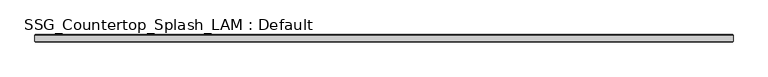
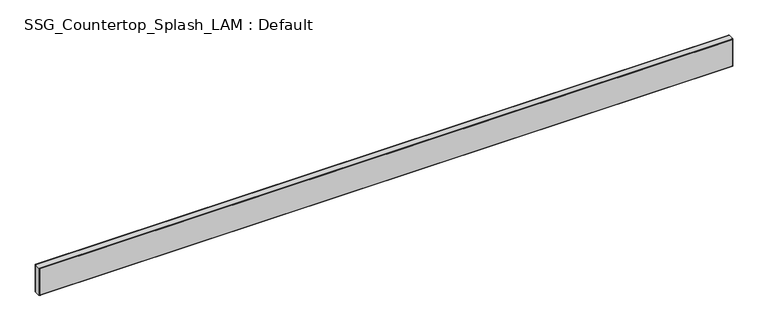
"""IFC4 building model written with IfcOpenShell, lengths in millimetres: furniture geometry, SSG_Countertop_Splash_LAM : Default."""

from ifc_helpers import new_model, si_unit, frame, origin, place, context, project, spatial, polyline, ellipse_curve, outline, extrude, source, transform, mapped, element, save
from ifc_brep_helpers import plane_surface, cylinder_surface, advanced_brep


def ssg_countertop_splash_lam_default_1a4fc160(model_context):
    return source(origin(), model_context, "Body", "SolidModel", [
        extrude(outline(polyline([(-1217.2, 12.7), (1217.2, 12.7), (1217.2, -12.7), (-1217.2, -12.7), (-1217.2, 12.7)])), frame((0.0, 0.0, 916.4), z_axis=(0.0, 0.0, 1.0), x_axis=(1.0, 0.0, 0.0)), (0.0, 0.0, 1.0), 97.6),
        advanced_brep(
        [(-1219.184375, 10.700061, 914.415625), (-1217.2, 12.7, 916.4), (1217.2, 12.7, 916.4), (1219.184375, 10.700061, 914.415625), (-1219.184375, -10.700061, 914.415625), (1219.184375, -10.700061, 914.415625), (-1217.2, -12.7, 916.4), (1217.2, -12.7, 916.4), (1217.2, 12.7, 1014.0), (1219.184375, 10.700061, 1015.984375), (1219.184375, -10.700061, 1015.984375), (1217.2, -12.7, 1014.0), (-1217.2, 12.7, 1014.0), (-1219.184375, 10.700061, 1015.984375), (-1219.184375, -10.700061, 1015.984375), (-1217.2, -12.7, 1014.0)],
        [
            (0, 1, ellipse_curve(frame((-1217.184375, 10.700061, 916.415625), z_axis=(0.7071067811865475, 0.0, -0.7071067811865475), x_axis=(-0.7071067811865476, 0.0, -0.7071067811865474)), 2.8284271, 2.0)),
            (1, 2),
            (2, 3, ellipse_curve(frame((1217.184375, 10.700061, 916.415625), z_axis=(-0.7071067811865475, 0.0, -0.7071067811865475), x_axis=(-0.7071067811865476, 0.0, 0.7071067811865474)), 2.8284271, 2.0)),
            (3, 0),
            (4, 0),
            (3, 5),
            (5, 4),
            (6, 4, ellipse_curve(frame((-1217.184375, -10.700061, 916.415625), z_axis=(0.7071067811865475, 0.0, -0.7071067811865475), x_axis=(-0.7071067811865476, 0.0, -0.7071067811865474)), 2.8284271, 2.0)),
            (5, 7, ellipse_curve(frame((1217.184375, -10.700061, 916.415625), z_axis=(-0.7071067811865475, 0.0, -0.7071067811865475), x_axis=(-0.7071067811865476, 0.0, 0.7071067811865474)), 2.8284271, 2.0)),
            (7, 6),
            (1, 6),
            (7, 2),
            (2, 8),
            (8, 9, ellipse_curve(frame((1217.184375, 10.700061, 1013.984375), z_axis=(0.7071067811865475, 0.0, -0.7071067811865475), x_axis=(-0.7071067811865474, 0.0, -0.7071067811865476)), 2.8284271, 2.0)),
            (9, 3),
            (9, 10),
            (10, 5),
            (10, 11, ellipse_curve(frame((1217.184375, -10.700061, 1013.984375), z_axis=(0.7071067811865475, 0.0, -0.7071067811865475), x_axis=(-0.7071067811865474, 0.0, -0.7071067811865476)), 2.8284271, 2.0)),
            (11, 7),
            (11, 8),
            (8, 12),
            (12, 13, ellipse_curve(frame((-1217.184375, 10.700061, 1013.984375), z_axis=(0.7071067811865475, 0.0, 0.7071067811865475), x_axis=(0.7071067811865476, 0.0, -0.7071067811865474)), 2.8284271, 2.0)),
            (13, 9),
            (13, 14),
            (14, 10),
            (14, 15, ellipse_curve(frame((-1217.184375, -10.700061, 1013.984375), z_axis=(0.7071067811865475, 0.0, 0.7071067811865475), x_axis=(0.7071067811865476, 0.0, -0.7071067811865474)), 2.8284271, 2.0)),
            (15, 11),
            (15, 12),
            (12, 1),
            (0, 13),
            (4, 14),
            (6, 15),
        ],
        [
            cylinder_surface(frame((-1217.2, 10.700061, 916.415625), z_axis=(-1.0, 0.0, 0.0), x_axis=(0.0, 0.0, -1.0)), 2.0),
            plane_surface(frame((-1219.184375, 10.700061, 914.415625), z_axis=(0.0, 0.0, -1.0), x_axis=(1.0, 0.0, 0.0))),
            cylinder_surface(frame((-1217.2, -10.700061, 916.415625), z_axis=(-1.0, 0.0, 0.0), x_axis=(0.0, 0.0, -1.0)), 2.0),
            plane_surface(frame((-1217.2, -12.7, 916.4), z_axis=(0.0, 0.0, 1.0), x_axis=(1.0, 0.0, 0.0))),
            cylinder_surface(frame((1217.184375, 10.700061, 916.4), z_axis=(0.0, 0.0, -1.0), x_axis=(1.0, 0.0, 0.0)), 2.0),
            plane_surface(frame((1219.184375, 10.700061, 914.415625), z_axis=(1.0, 0.0, 0.0), x_axis=(0.0, 0.0, 1.0))),
            cylinder_surface(frame((1217.184375, -10.700061, 916.4), z_axis=(0.0, 0.0, -1.0), x_axis=(1.0, 0.0, 0.0)), 2.0),
            plane_surface(frame((1217.2, -12.7, 916.4), z_axis=(-1.0, 0.0, 0.0), x_axis=(0.0, 0.0, 1.0))),
            cylinder_surface(frame((1217.2, 10.700061, 1013.984375), z_axis=(1.0, 0.0, 0.0), x_axis=(0.0, 0.0, 1.0)), 2.0),
            plane_surface(frame((1219.184375, 10.700061, 1015.984375), z_axis=(0.0, 0.0, 1.0), x_axis=(-1.0, 0.0, 0.0))),
            cylinder_surface(frame((1217.2, -10.700061, 1013.984375), z_axis=(1.0, 0.0, 0.0), x_axis=(0.0, 0.0, 1.0)), 2.0),
            plane_surface(frame((1217.2, -12.7, 1014.0), z_axis=(0.0, 0.0, -1.0), x_axis=(-1.0, 0.0, 0.0))),
            cylinder_surface(frame((-1217.184375, 10.700061, 1014.0), z_axis=(0.0, 0.0, 1.0), x_axis=(-1.0, 0.0, 0.0)), 2.0),
            plane_surface(frame((-1219.184375, 10.700061, 1015.984375), z_axis=(-1.0, 0.0, 0.0), x_axis=(0.0, 0.0, -1.0))),
            cylinder_surface(frame((-1217.184375, -10.700061, 1014.0), z_axis=(0.0, 0.0, 1.0), x_axis=(-1.0, 0.0, 0.0)), 2.0),
            plane_surface(frame((-1217.2, -12.7, 1014.0), z_axis=(1.0, 0.0, 0.0), x_axis=(0.0, 0.0, -1.0))),
        ],
        [
            (0, [[1, 2, 3, 4]]),
            (1, [[5, -4, 6, 7]]),
            (2, [[8, -7, 9, 10]]),
            (3, [[11, -10, 12, -2]]),
            (4, [[-3, 13, 14, 15]]),
            (5, [[-6, -15, 16, 17]]),
            (6, [[-9, -17, 18, 19]]),
            (7, [[-12, -19, 20, -13]]),
            (8, [[-14, 21, 22, 23]]),
            (9, [[-16, -23, 24, 25]]),
            (10, [[-18, -25, 26, 27]]),
            (11, [[-20, -27, 28, -21]]),
            (12, [[-22, 29, -1, 30]]),
            (13, [[-24, -30, -5, 31]]),
            (14, [[-26, -31, -8, 32]]),
            (15, [[-28, -32, -11, -29]]),
        ],
    ),
    ])


if __name__ == "__main__":
    model = new_model("IFC4")
    model_context = context("Model", 3, world=origin())
    ifc_project = project(units=[si_unit("LENGTHUNIT", "METRE", prefix="MILLI")], contexts=[model_context])
    site = spatial("IfcSite", under=ifc_project)
    building = spatial("IfcBuilding", under=site)
    placement = place(None, origin())
    ssg_countertop_splash_lam_default_shape = ssg_countertop_splash_lam_default_1a4fc160(model_context)
    element("IfcFurniture", 1, ObjectType="SSG_Countertop_Splash_LAM : Default", at=placement, inside=building, context=model_context, shape_type="MappedRepresentation", body=[
        mapped(ssg_countertop_splash_lam_default_shape, transform((0.0, 0.0, 0.0), x_axis=(1.0, 0.0, 0.0), y_axis=(0.0, 1.0, 0.0), z_axis=(0.0, 0.0, 1.0))),
    ])
    save(model, "model.ifc")
